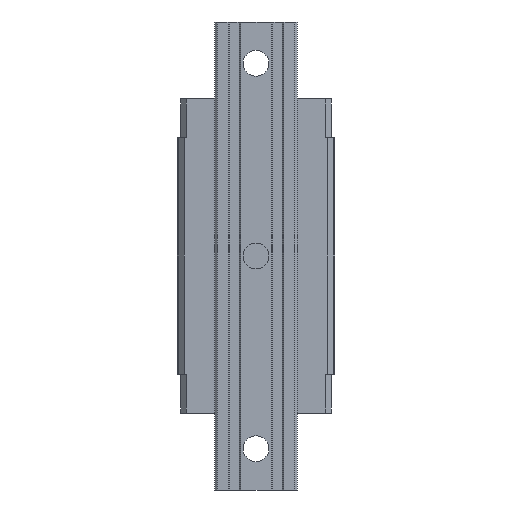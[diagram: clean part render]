
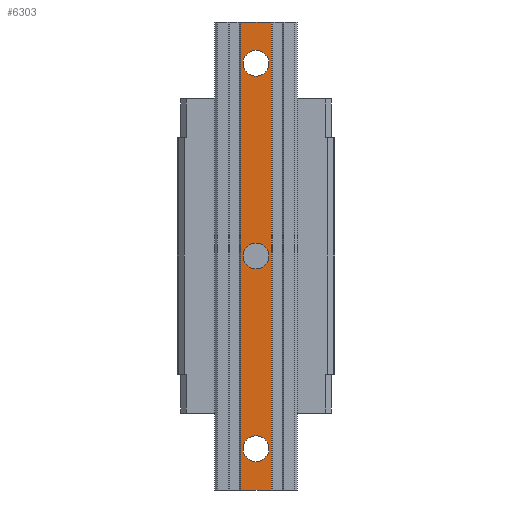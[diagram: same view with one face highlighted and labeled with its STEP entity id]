
A CAD part, front view. The second image highlights one B-rep face of the part: STEP entity #6303.
In plain terms, the highlighted planar face has unit normal (0, -1, 0).
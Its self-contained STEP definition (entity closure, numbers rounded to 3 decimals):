
#251 = CARTESIAN_POINT ( 'NONE',  ( 8.25, -38., -127.5 ) ) ;
#266 = AXIS2_PLACEMENT_3D ( 'NONE', #11156, #513, #6165 ) ;
#268 = VERTEX_POINT ( 'NONE', #9665 ) ;
#412 = EDGE_CURVE ( 'NONE', #268, #7200, #2078, .T. ) ;
#415 = VERTEX_POINT ( 'NONE', #11805 ) ;
#456 = CARTESIAN_POINT ( 'NONE',  ( 0., -38., 0. ) ) ;
#513 = DIRECTION ( 'NONE',  ( 0., 1., 0. ) ) ;
#628 = CIRCLE ( 'NONE', #8255, 7. ) ;
#689 = CIRCLE ( 'NONE', #12622, 7. ) ;
#911 = AXIS2_PLACEMENT_3D ( 'NONE', #8626, #8757, #8688 ) ;
#1186 = DIRECTION ( 'NONE',  ( 0., 1., 0. ) ) ;
#1376 = EDGE_LOOP ( 'NONE', ( #3094, #1597 ) ) ;
#1449 = EDGE_LOOP ( 'NONE', ( #5689, #10568 ) ) ;
#1512 = EDGE_CURVE ( 'NONE', #7200, #5572, #9365, .T. ) ;
#1522 = VERTEX_POINT ( 'NONE', #6246 ) ;
#1597 = ORIENTED_EDGE ( 'NONE', *, *, #8861, .T. ) ;
#1693 = CIRCLE ( 'NONE', #4956, 7. ) ;
#1756 = EDGE_CURVE ( 'NONE', #10804, #12221, #6668, .T. ) ;
#2078 = LINE ( 'NONE', #7870, #3155 ) ;
#2925 = DIRECTION ( 'NONE',  ( 0., 0., 1. ) ) ;
#3094 = ORIENTED_EDGE ( 'NONE', *, *, #11526, .T. ) ;
#3155 = VECTOR ( 'NONE', #8849, 1000. ) ;
#3328 = ORIENTED_EDGE ( 'NONE', *, *, #8455, .T. ) ;
#3420 = VERTEX_POINT ( 'NONE', #4088 ) ;
#3439 = DIRECTION ( 'NONE',  ( 1., 0., 0. ) ) ;
#3605 = ORIENTED_EDGE ( 'NONE', *, *, #1756, .T. ) ;
#3661 = EDGE_CURVE ( 'NONE', #5572, #3420, #6097, .T. ) ;
#3970 = CIRCLE ( 'NONE', #266, 7. ) ;
#4076 = VERTEX_POINT ( 'NONE', #6539 ) ;
#4088 = CARTESIAN_POINT ( 'NONE',  ( 8.25, -38., 127.5 ) ) ;
#4218 = CIRCLE ( 'NONE', #911, 7. ) ;
#4220 = AXIS2_PLACEMENT_3D ( 'NONE', #7266, #5401, #10448 ) ;
#4227 = ORIENTED_EDGE ( 'NONE', *, *, #3661, .T. ) ;
#4291 = CARTESIAN_POINT ( 'NONE',  ( 0., -38., 127.5 ) ) ;
#4388 = DIRECTION ( 'NONE',  ( 0., 1., 0. ) ) ;
#4595 = ORIENTED_EDGE ( 'NONE', *, *, #412, .T. ) ;
#4596 = CARTESIAN_POINT ( 'NONE',  ( 0., -38., 7. ) ) ;
#4956 = AXIS2_PLACEMENT_3D ( 'NONE', #456, #4388, #10412 ) ;
#5401 = DIRECTION ( 'NONE',  ( 0., -1., 0. ) ) ;
#5572 = VERTEX_POINT ( 'NONE', #6958 ) ;
#5689 = ORIENTED_EDGE ( 'NONE', *, *, #9317, .T. ) ;
#5794 = EDGE_CURVE ( 'NONE', #4076, #6446, #689, .T. ) ;
#6097 = LINE ( 'NONE', #251, #9946 ) ;
#6165 = DIRECTION ( 'NONE',  ( 0., 0., 1. ) ) ;
#6198 = CARTESIAN_POINT ( 'NONE',  ( 0., -38., -105. ) ) ;
#6246 = CARTESIAN_POINT ( 'NONE',  ( 0., -38., 98. ) ) ;
#6303 = ADVANCED_FACE ( 'NONE', ( #12160, #10381, #9410, #9217 ), #12357, .T. ) ;
#6437 = CARTESIAN_POINT ( 'NONE',  ( 0., -38., -127.5 ) ) ;
#6446 = VERTEX_POINT ( 'NONE', #10350 ) ;
#6455 = VECTOR ( 'NONE', #9325, 1000. ) ;
#6539 = CARTESIAN_POINT ( 'NONE',  ( 0., -38., -112. ) ) ;
#6668 = CIRCLE ( 'NONE', #9765, 7. ) ;
#6958 = CARTESIAN_POINT ( 'NONE',  ( 8.25, -38., -127.5 ) ) ;
#7200 = VERTEX_POINT ( 'NONE', #11100 ) ;
#7266 = CARTESIAN_POINT ( 'NONE',  ( -8.25, -38., -127.5 ) ) ;
#7457 = CARTESIAN_POINT ( 'NONE',  ( 0., -38., -7. ) ) ;
#7571 = DIRECTION ( 'NONE',  ( 0., 1., 0. ) ) ;
#7868 = EDGE_LOOP ( 'NONE', ( #4595, #8253, #4227, #11056 ) ) ;
#7870 = CARTESIAN_POINT ( 'NONE',  ( -8.25, -38., -127.5 ) ) ;
#8218 = DIRECTION ( 'NONE',  ( 0., 0., 1. ) ) ;
#8253 = ORIENTED_EDGE ( 'NONE', *, *, #1512, .T. ) ;
#8255 = AXIS2_PLACEMENT_3D ( 'NONE', #9680, #7571, #2925 ) ;
#8455 = EDGE_CURVE ( 'NONE', #12221, #10804, #1693, .T. ) ;
#8477 = LINE ( 'NONE', #4291, #6455 ) ;
#8626 = CARTESIAN_POINT ( 'NONE',  ( 0., -38., 105. ) ) ;
#8688 = DIRECTION ( 'NONE',  ( 0., 0., 1. ) ) ;
#8757 = DIRECTION ( 'NONE',  ( 0., 1., 0. ) ) ;
#8838 = DIRECTION ( 'NONE',  ( 0., 0., 1. ) ) ;
#8849 = DIRECTION ( 'NONE',  ( 0., 0., -1. ) ) ;
#8861 = EDGE_CURVE ( 'NONE', #1522, #415, #3970, .T. ) ;
#9217 = FACE_OUTER_BOUND ( 'NONE', #7868, .T. ) ;
#9317 = EDGE_CURVE ( 'NONE', #6446, #4076, #628, .T. ) ;
#9325 = DIRECTION ( 'NONE',  ( 1., 0., 0. ) ) ;
#9365 = LINE ( 'NONE', #6437, #10413 ) ;
#9410 = FACE_BOUND ( 'NONE', #1449, .T. ) ;
#9665 = CARTESIAN_POINT ( 'NONE',  ( -8.25, -38., 127.5 ) ) ;
#9680 = CARTESIAN_POINT ( 'NONE',  ( 0., -38., -105. ) ) ;
#9765 = AXIS2_PLACEMENT_3D ( 'NONE', #9908, #10771, #8838 ) ;
#9908 = CARTESIAN_POINT ( 'NONE',  ( 0., -38., 0. ) ) ;
#9946 = VECTOR ( 'NONE', #12110, 1000. ) ;
#10350 = CARTESIAN_POINT ( 'NONE',  ( 0., -38., -98. ) ) ;
#10381 = FACE_BOUND ( 'NONE', #1376, .T. ) ;
#10412 = DIRECTION ( 'NONE',  ( 0., 0., 1. ) ) ;
#10413 = VECTOR ( 'NONE', #3439, 1000. ) ;
#10448 = DIRECTION ( 'NONE',  ( 0., 0., -1. ) ) ;
#10568 = ORIENTED_EDGE ( 'NONE', *, *, #5794, .T. ) ;
#10732 = EDGE_CURVE ( 'NONE', #268, #3420, #8477, .T. ) ;
#10771 = DIRECTION ( 'NONE',  ( 0., 1., 0. ) ) ;
#10804 = VERTEX_POINT ( 'NONE', #4596 ) ;
#11056 = ORIENTED_EDGE ( 'NONE', *, *, #10732, .F. ) ;
#11100 = CARTESIAN_POINT ( 'NONE',  ( -8.25, -38., -127.5 ) ) ;
#11141 = EDGE_LOOP ( 'NONE', ( #3605, #3328 ) ) ;
#11156 = CARTESIAN_POINT ( 'NONE',  ( 0., -38., 105. ) ) ;
#11526 = EDGE_CURVE ( 'NONE', #415, #1522, #4218, .T. ) ;
#11805 = CARTESIAN_POINT ( 'NONE',  ( 0., -38., 112. ) ) ;
#12110 = DIRECTION ( 'NONE',  ( 0., 0., 1. ) ) ;
#12160 = FACE_BOUND ( 'NONE', #11141, .T. ) ;
#12221 = VERTEX_POINT ( 'NONE', #7457 ) ;
#12357 = PLANE ( 'NONE',  #4220 ) ;
#12622 = AXIS2_PLACEMENT_3D ( 'NONE', #6198, #1186, #8218 ) ;
